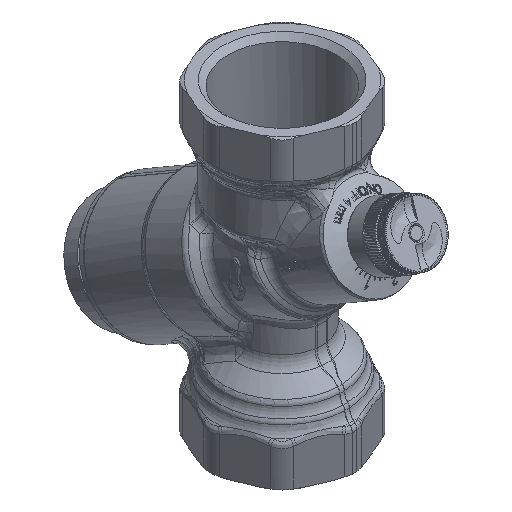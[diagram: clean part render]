
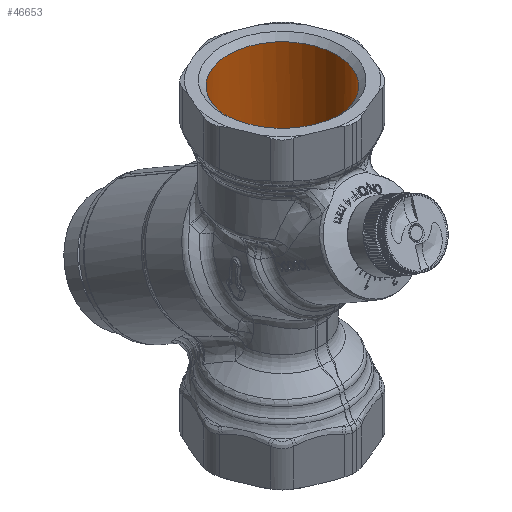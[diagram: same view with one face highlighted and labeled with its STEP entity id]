
A CAD part, isometric view. The second image highlights one B-rep face of the part: STEP entity #46653.
In plain terms, the highlighted cylindrical face has radius 15.25 mm (diameter 30.5 mm), a full revolution.
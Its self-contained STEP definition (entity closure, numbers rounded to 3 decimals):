
#1212=CIRCLE('',#49937,15.25);
#1213=CIRCLE('',#49939,15.25);
#1214=CIRCLE('',#49940,15.25);
#4839=FACE_OUTER_BOUND('',#7571,.T.);
#7571=EDGE_LOOP('',(#31286,#31287,#31288,#31289,#31290,#31291));
#10437=B_SPLINE_CURVE_WITH_KNOTS('',3,(#66174,#66175,#66176,#66177,#66178,
#66179,#66180,#66181,#66182,#66183,#66184,#66185,#66186,#66187,#66188,#66189,
#66190,#66191),.UNSPECIFIED.,.F.,.F.,(4,2,2,2,2,2,2,2,4),(0.726,
1.187,1.624,1.842,2.06,2.279,
2.497,2.934,3.395),.UNSPECIFIED.);
#12207=LINE('',#66857,#15557);
#15557=VECTOR('',#53939,15.25);
#18950=VERTEX_POINT('',#66164);
#18951=VERTEX_POINT('',#66173);
#19035=VERTEX_POINT('',#66852);
#19036=VERTEX_POINT('',#66856);
#23758=EDGE_CURVE('',#18950,#18951,#10437,.T.);
#23867=EDGE_CURVE('',#19035,#19035,#1212,.T.);
#23868=EDGE_CURVE('',#19035,#19036,#12207,.T.);
#23869=EDGE_CURVE('',#18951,#19036,#1213,.T.);
#23870=EDGE_CURVE('',#19036,#18950,#1214,.T.);
#31286=ORIENTED_EDGE('',*,*,#23867,.F.);
#31287=ORIENTED_EDGE('',*,*,#23868,.T.);
#31288=ORIENTED_EDGE('',*,*,#23869,.F.);
#31289=ORIENTED_EDGE('',*,*,#23758,.F.);
#31290=ORIENTED_EDGE('',*,*,#23870,.F.);
#31291=ORIENTED_EDGE('',*,*,#23868,.F.);
#45025=CYLINDRICAL_SURFACE('',#49938,15.25);
#46653=ADVANCED_FACE('',(#4839),#45025,.F.);
#49937=AXIS2_PLACEMENT_3D('',#66854,#53935,#53936);
#49938=AXIS2_PLACEMENT_3D('',#66855,#53937,#53938);
#49939=AXIS2_PLACEMENT_3D('',#66858,#53940,#53941);
#49940=AXIS2_PLACEMENT_3D('',#66859,#53942,#53943);
#53935=DIRECTION('center_axis',(0.,0.,-1.));
#53936=DIRECTION('ref_axis',(-1.,0.,0.));
#53937=DIRECTION('center_axis',(0.,0.,-1.));
#53938=DIRECTION('ref_axis',(-1.,0.,0.));
#53939=DIRECTION('',(0.,0.,-1.));
#53940=DIRECTION('center_axis',(0.,0.,
1.));
#53941=DIRECTION('ref_axis',(1.,0.,0.));
#53942=DIRECTION('center_axis',(0.,0.,
1.));
#53943=DIRECTION('ref_axis',(1.,0.,0.));
#66164=CARTESIAN_POINT('',(-9.496,-11.833,13.242));
#66173=CARTESIAN_POINT('',(9.496,-11.833,13.242));
#66174=CARTESIAN_POINT('Ctrl Pts',(-9.496,-11.833,
13.242));
#66175=CARTESIAN_POINT('Ctrl Pts',(-8.901,-12.306,
14.692));
#66176=CARTESIAN_POINT('Ctrl Pts',(-8.147,-12.83,
16.047));
#66177=CARTESIAN_POINT('Ctrl Pts',(-6.437,-13.757,
18.322));
#66178=CARTESIAN_POINT('Ctrl Pts',(-5.37,-14.232,19.41));
#66179=CARTESIAN_POINT('Ctrl Pts',(-3.504,-14.756,
20.584));
#66180=CARTESIAN_POINT('Ctrl Pts',(-2.838,-14.9,
20.901));
#66181=CARTESIAN_POINT('Ctrl Pts',(-1.45,-15.097,
21.334));
#66182=CARTESIAN_POINT('Ctrl Pts',(-0.728,-15.15,21.449));
#66183=CARTESIAN_POINT('Ctrl Pts',(0.728,-15.15,21.449));
#66184=CARTESIAN_POINT('Ctrl Pts',(1.45,-15.097,21.334));
#66185=CARTESIAN_POINT('Ctrl Pts',(2.838,-14.9,20.901));
#66186=CARTESIAN_POINT('Ctrl Pts',(3.504,-14.756,20.584));
#66187=CARTESIAN_POINT('Ctrl Pts',(5.37,-14.232,19.41));
#66188=CARTESIAN_POINT('Ctrl Pts',(6.437,-13.757,18.322));
#66189=CARTESIAN_POINT('Ctrl Pts',(8.147,-12.83,16.047));
#66190=CARTESIAN_POINT('Ctrl Pts',(8.901,-12.306,14.692));
#66191=CARTESIAN_POINT('Ctrl Pts',(9.496,-11.833,13.242));
#66852=CARTESIAN_POINT('',(15.25,0.1,38.842));
#66854=CARTESIAN_POINT('Origin',(0.,0.1,38.842));
#66855=CARTESIAN_POINT('Origin',(0.,0.1,31.342));
#66856=CARTESIAN_POINT('',(15.25,0.1,13.242));
#66857=CARTESIAN_POINT('',(15.25,0.1,31.342));
#66858=CARTESIAN_POINT('Origin',(0.,0.1,
13.242));
#66859=CARTESIAN_POINT('Origin',(0.,0.1,
13.242));
